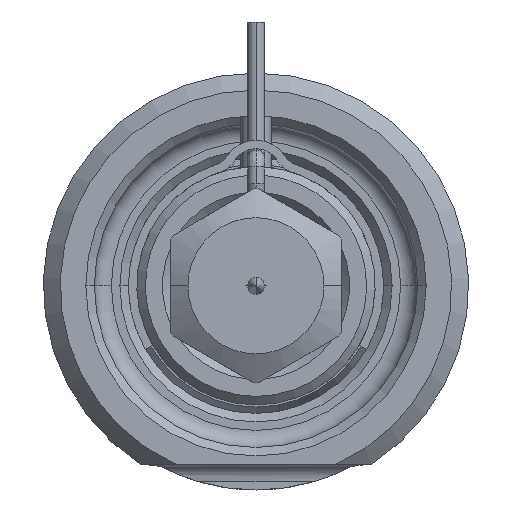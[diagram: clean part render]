
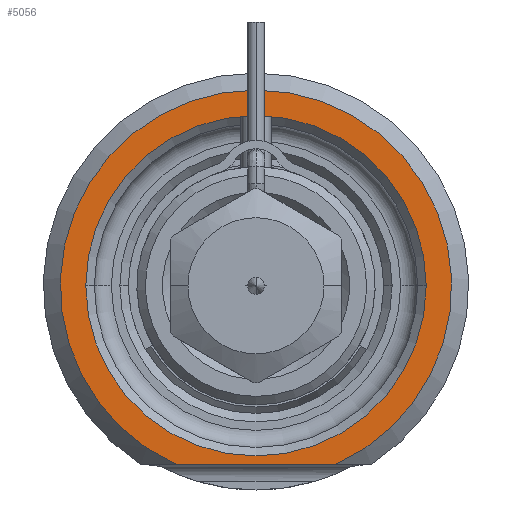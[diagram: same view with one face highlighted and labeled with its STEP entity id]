
A CAD part, front view. The second image highlights one B-rep face of the part: STEP entity #5056.
In plain terms, the highlighted planar face has unit normal (0, -1, 0).
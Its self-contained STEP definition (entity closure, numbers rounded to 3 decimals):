
#1260=CARTESIAN_POINT('',(0.,0.,0.));
#1261=DIRECTION('',(0.,-1.,0.));
#1262=DIRECTION('',(0.408,0.,-0.913));
#1263=AXIS2_PLACEMENT_3D('',#1260,#1261,#1262);
#1284=DIRECTION('',(1.,0.,0.));
#1285=VECTOR('',#1284,9.381);
#1286=CARTESIAN_POINT('',(-4.69,0.,-10.5));
#1287=LINE('',#1286,#1285);
#1288=CARTESIAN_POINT('',(0.,0.,0.));
#1289=DIRECTION('',(0.,1.,0.));
#1290=DIRECTION('',(-1.,0.,0.));
#1291=AXIS2_PLACEMENT_3D('',#1288,#1289,#1290);
#1293=CARTESIAN_POINT('',(0.,0.,0.));
#1294=DIRECTION('',(0.,1.,0.));
#1295=DIRECTION('',(1.,0.,0.));
#1296=AXIS2_PLACEMENT_3D('',#1293,#1294,#1295);
#3184=CARTESIAN_POINT('',(-10.,0.,0.));
#3185=CARTESIAN_POINT('',(10.,0.,0.));
#3186=VERTEX_POINT('',#3184);
#3187=VERTEX_POINT('',#3185);
#3228=CARTESIAN_POINT('',(-4.69,0.,-10.5));
#3229=CARTESIAN_POINT('',(4.69,0.,-10.5));
#3230=VERTEX_POINT('',#3228);
#3231=VERTEX_POINT('',#3229);
#5041=CARTESIAN_POINT('',(0.,0.,0.));
#5042=DIRECTION('',(0.,-1.,0.));
#5043=DIRECTION('',(1.,0.,0.));
#5044=AXIS2_PLACEMENT_3D('',#5041,#5042,#5043);
#5045=PLANE('',#5044);
#5046=ORIENTED_EDGE('',*,*,#4976,.F.);
#5047=ORIENTED_EDGE('',*,*,#5033,.F.);
#5048=EDGE_LOOP('',(#5046,#5047));
#5049=FACE_OUTER_BOUND('',#5048,.F.);
#5051=ORIENTED_EDGE('',*,*,#5050,.F.);
#5053=ORIENTED_EDGE('',*,*,#5052,.F.);
#5054=EDGE_LOOP('',(#5051,#5053));
#5055=FACE_BOUND('',#5054,.F.);
#5056=ADVANCED_FACE('',(#5049,#5055),#5045,.T.);
#1264=CIRCLE('',#1263,11.5);
#1292=CIRCLE('',#1291,10.);
#1297=CIRCLE('',#1296,10.);
#4976=EDGE_CURVE('',#3230,#3231,#1287,.T.);
#5033=EDGE_CURVE('',#3231,#3230,#1264,.T.);
#5050=EDGE_CURVE('',#3186,#3187,#1292,.T.);
#5052=EDGE_CURVE('',#3187,#3186,#1297,.T.);
